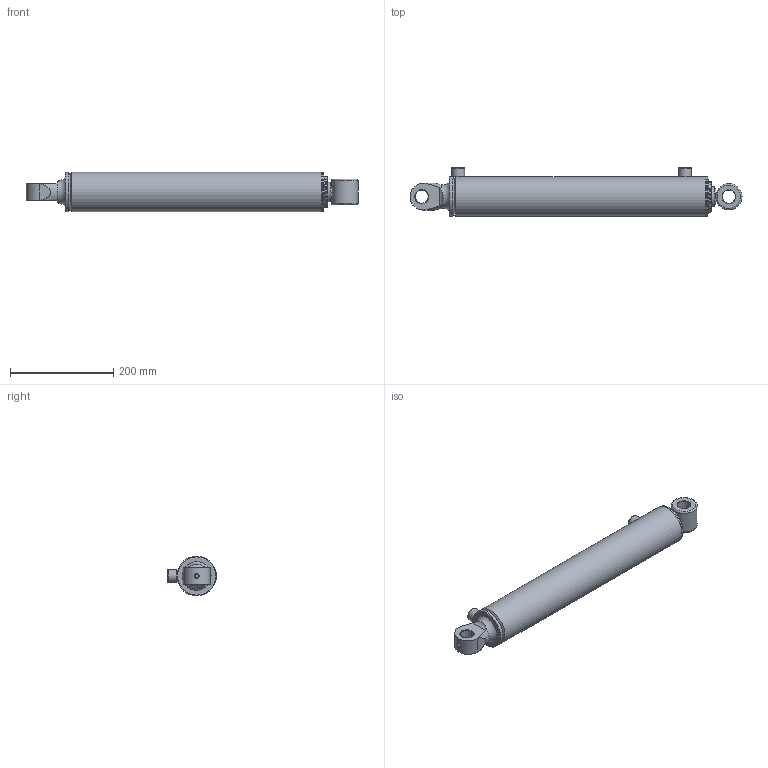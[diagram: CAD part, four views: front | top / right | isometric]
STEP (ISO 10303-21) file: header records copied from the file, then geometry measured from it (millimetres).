
FILE_DESCRIPTION(/* description */ ('Alibre Inc.'),/* implementation_level */ '2;1');
FILE_NAME(/* name */ 'export0',/* time_stamp */ '2016-08-16T09:56:48+12:00',/* author */ (''),/* organization */ (''),/* preprocessor_version */ 'ST-DEVELOPER v14',/* originating_system */ 'Alibre',/* authorisation */ '');
FILE_SCHEMA (('AUTOMOTIVE_DESIGN'));
Length unit declared in the file: centimetre
Bounding box: 642.13 x 94.2 x 76.2 mm (x, y, z)
Volume: 1613028.5 mm3; surface area: 375854.8 mm2
Topology: 12 solids, 12 shells, 150 faces, 308 edges, 192 vertices
Faces by surface type: cylinder 55, plane 51, cone 28, torus 13, sphere 2, bspline 1
Full cylindrical faces by diameter (mm): 2.5 x2, 7 x3, 8.3 x2, 8.8 x1, 15.25 x2, 23 x1, 23.622 x1, 25 x2, 25.4 x2, 25.45 x1, 38.1 x1, 38.18 x2, 38.35 x1, 44.45 x1, 47.62 x2, 47.63 x1, 48 x2, 50.8 x1, 56.5 x1, 57.66 x1, 58.9 x2, 59.87 x2, 60.2 x1, 62.13 x2, 63.39 x2, 63.4 x1, 63.5 x2, 66.7 x1, 76.2 x3
Entity records: 4139 total; most frequent: CARTESIAN_POINT 1185, DIRECTION 569, ORIENTED_EDGE 394, AXIS2_PLACEMENT_3D 300, FACE_BOUND 271, EDGE_LOOP 269, EDGE_CURVE 197, VERTEX_POINT 174
